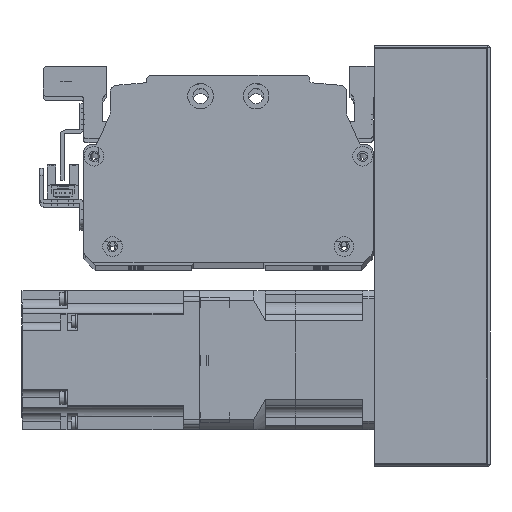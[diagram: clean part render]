
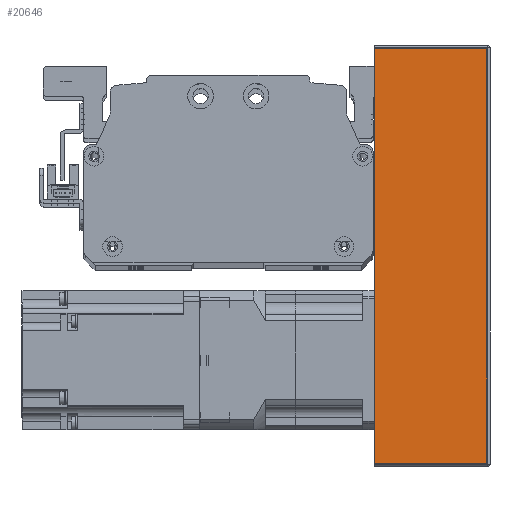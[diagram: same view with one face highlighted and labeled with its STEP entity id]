
A CAD part, top view. The second image highlights one B-rep face of the part: STEP entity #20646.
In plain terms, the highlighted planar face has unit normal (0, 0, 1) as drawn and (0, 1, 0) by its records, which use the part's own axes.
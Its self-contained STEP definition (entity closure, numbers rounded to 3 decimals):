
#568=PLANE('',#22669);
#1775=LINE('',#33627,#3399);
#1789=LINE('',#33672,#3413);
#1793=LINE('',#33694,#3417);
#1812=LINE('',#33757,#3436);
#3399=VECTOR('',#27326,10.);
#3413=VECTOR('',#27374,10.);
#3417=VECTOR('',#27408,10.);
#3436=VECTOR('',#27491,10.);
#5828=FACE_OUTER_BOUND('',#7300,.T.);
#7300=EDGE_LOOP('',(#17226,#17227,#17228,#17229));
#10164=VERTEX_POINT('',#33624);
#10165=VERTEX_POINT('',#33626);
#10178=VERTEX_POINT('',#33667);
#10179=VERTEX_POINT('',#33670);
#12613=EDGE_CURVE('',#10165,#10164,#1775,.T.);
#12637=EDGE_CURVE('',#10178,#10179,#1789,.T.);
#12649=EDGE_CURVE('',#10164,#10178,#1793,.T.);
#12680=EDGE_CURVE('',#10179,#10165,#1812,.T.);
#17226=ORIENTED_EDGE('',*,*,#12637,.T.);
#17227=ORIENTED_EDGE('',*,*,#12680,.T.);
#17228=ORIENTED_EDGE('',*,*,#12613,.T.);
#17229=ORIENTED_EDGE('',*,*,#12649,.T.);
#20646=ADVANCED_FACE('',(#5828),#568,.F.);
#22669=AXIS2_PLACEMENT_3D('',#33756,#27489,#27490);
#27326=DIRECTION('',(-1.,0.,0.));
#27374=DIRECTION('',(1.,0.,0.));
#27408=DIRECTION('',(0.,0.,1.));
#27489=DIRECTION('center_axis',(0.,-1.,0.));
#27490=DIRECTION('ref_axis',(-1.,0.,0.));
#27491=DIRECTION('',(0.,0.,-1.));
#33624=CARTESIAN_POINT('',(-90.,38.,-25.));
#33626=CARTESIAN_POINT('',(90.,38.,-25.));
#33627=CARTESIAN_POINT('',(-91.,38.,-25.));
#33667=CARTESIAN_POINT('',(-90.,38.,24.));
#33670=CARTESIAN_POINT('',(90.,38.,24.));
#33672=CARTESIAN_POINT('',(45.5,38.,24.));
#33694=CARTESIAN_POINT('',(-90.,38.,0.));
#33756=CARTESIAN_POINT('Origin',(91.,38.,0.));
#33757=CARTESIAN_POINT('',(90.,38.,0.));
